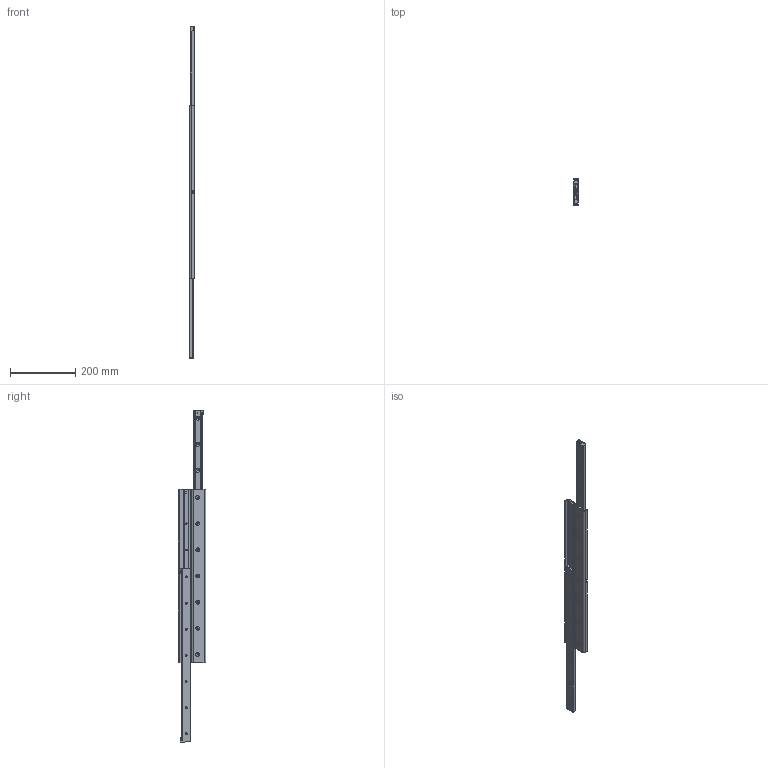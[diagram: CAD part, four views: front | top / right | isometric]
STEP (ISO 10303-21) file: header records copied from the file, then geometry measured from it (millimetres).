
FILE_DESCRIPTION (( 'STEP AP203' ), '1' );
FILE_NAME ('L1984.28D-0530.step', '2018-07-03T12:14:12', ( '' ), ( '' ), 'SwSTEP 2.0', 'SolidWorks 2017', '' );
FILE_SCHEMA (( 'CONFIG_CONTROL_DESIGN' ));
Length unit declared in the file: millimetre
Products named in the file (5): Part2_L1984.28D-0530; Part0_L1984.28D-0530; Part3_L1984.28D-0530; Part1_L1984.28D-0530; L1984.28D-0530
Assembly tree (7 placements, depth 2):
  L1984.28D-0530
    Part0_L1984.28D-0530
    Part2_L1984.28D-0530  x2
    Part1_L1984.28D-0530  x2
    Part3_L1984.28D-0530  x2
Bounding box: 17 x 84 x 1016 mm (x, y, z)
Volume: 456144.1 mm3; surface area: 313697.2 mm2
Topology: 7 solids, 7 shells, 476 faces, 1234 edges, 820 vertices
Faces by surface type: plane 326, cylinder 94, cone 56
Entity records: 10586 total; most frequent: CARTESIAN_POINT 1742, DIRECTION 1711, ORIENTED_EDGE 1686, EDGE_CURVE 843, LINE 653, VECTOR 653, VERTEX_POINT 560, AXIS2_PLACEMENT_3D 529
